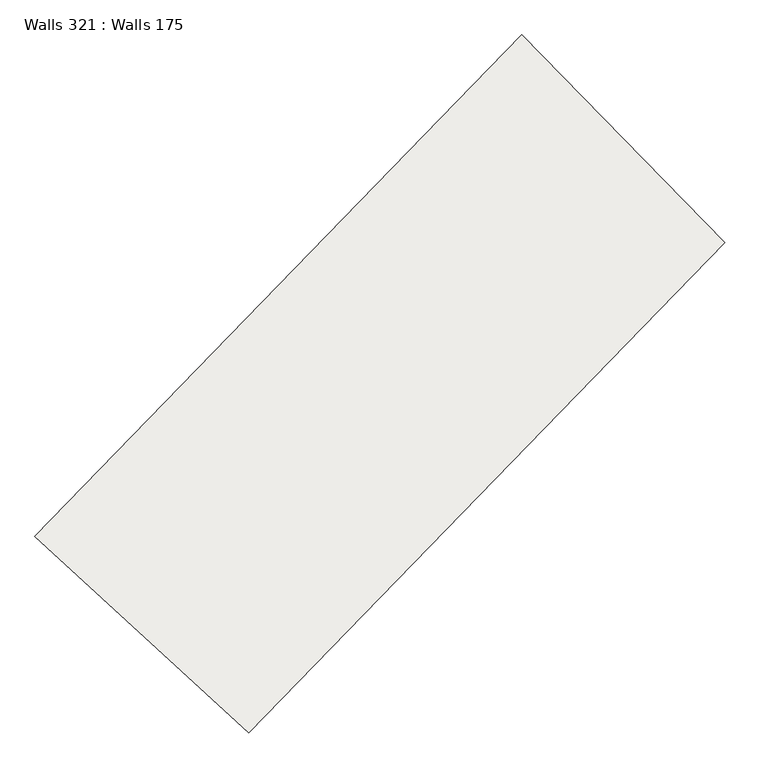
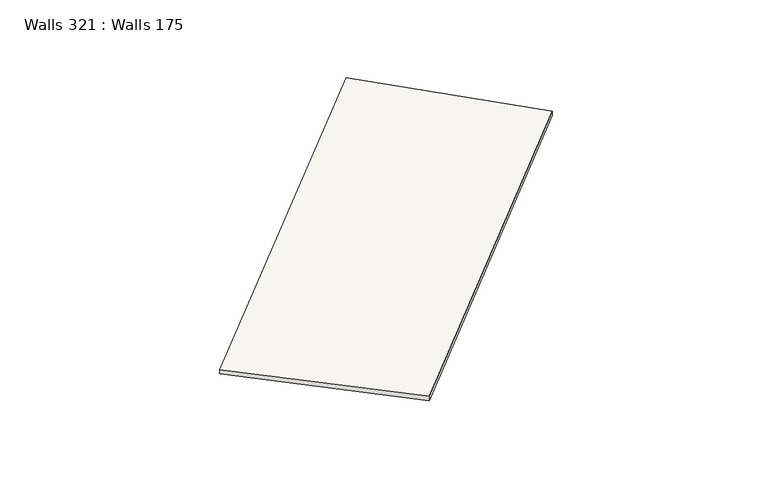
"""IFC4 building model written with IfcOpenShell, lengths in millimetres: slab geometry, Walls 321 : Walls 175."""

from ifc_helpers import new_model, si_unit, frame, origin, place, context, project, spatial, source, transform, mapped, element, save
from ifc_brep_helpers import plane_surface, spline_curve, spline_surface, advanced_brep


def walls_321_walls_175_143b66fd(model_context):
    return source(origin(), model_context, "Body", "AdvancedBrep", [
        advanced_brep(
        [(232038.0150991, 139463.9941908, 642170.0), (235132.3347424, 136624.0670887, 642170.0), (235132.3347424, 136624.0670887, 642270.0), (232038.0150991, 139463.9941908, 642270.0), (239078.86514, 146717.820249, 642290.0), (239078.86514, 146717.820249, 642390.0), (242009.7156281, 143709.4792749, 642390.0), (242009.7156281, 143709.4792749, 642290.0)],
        [
            (0, 1),
            (1, 2),
            (2, 3),
            (3, 0),
            (4, 5),
            (5, 6),
            (6, 7),
            (7, 4),
            (5, 3, spline_curve(3, [(239078.86514, 146717.820249, 642390.0), (236664.958016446, 144366.09186091, 642350.000000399), (234316.786129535, 141946.891007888, 642309.999999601), (232038.0150991, 139463.9941908, 642270.0)], [4, 4], [0.0, 32.78709902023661])),
            (2, 6, spline_curve(3, [(235132.3347424, 136624.0670887, 642270.0), (237358.19898307, 139049.31787638, 642309.999999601), (239651.852782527, 141412.351545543, 642350.000000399), (242009.7156281, 143709.4792749, 642390.0)], [4, 4], [0.0, 32.78709902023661])),
            (7, 1, spline_curve(3, [(242009.7156281, 143709.4792749, 642290.0), (239651.852782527, 141412.351545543, 642250.000000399), (237358.19898307, 139049.31787638, 642209.999999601), (235132.3347424, 136624.0670887, 642170.0)], [4, 4], [0.0, 32.78709902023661])),
            (0, 4, spline_curve(3, [(232038.0150991, 139463.9941908, 642170.0), (234316.786129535, 141946.891007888, 642209.999999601), (236664.958016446, 144366.09186091, 642250.000000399), (239078.86514, 146717.820249, 642290.0)], [4, 4], [0.0, 32.78709902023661])),
        ],
        [
            plane_surface(frame((233585.1749208, 138044.0306398, 642220.0), z_axis=(-0.6761731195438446, -0.7367427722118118, 0.0), x_axis=(0.7367427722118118, -0.6761731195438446, 0.0))),
            plane_surface(frame((240544.2903841, 145213.649762, 642340.0), z_axis=(0.7162716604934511, 0.6978215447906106, 0.0), x_axis=(0.6978215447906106, -0.7162716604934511, 0.0))),
            spline_surface(3, 3, [[(242009.7156281, 143709.4792749, 642390.0), (239651.852782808, 141412.351545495, 642350.0), (237358.198982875, 139049.317876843, 642310.0), (235132.3347424, 136624.0670887, 642270.0)], [(241032.765465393, 144712.259599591, 642390.0), (238656.22119405, 142396.931650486, 642350.0), (236344.394698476, 140015.175587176, 642310.0), (234100.894861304, 137570.709456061, 642270.0)], [(240055.815302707, 145715.039924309, 642390.0), (237660.589605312, 143381.511755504, 642350.0), (235330.590414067, 140981.033297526, 642310.0), (233069.454980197, 138517.351823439, 642270.0)], [(239078.86514, 146717.820249, 642390.0), (236664.958016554, 144366.091860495, 642350.0), (234316.786129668, 141946.89100786, 642310.0), (232038.0150991, 139463.9941908, 642270.0)]], [4, 4], [4, 4], [0.0, 13.779527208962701], [0.0, 32.78709902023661]),
            spline_surface(3, 3, [[(239078.86514, 146717.820249, 642290.0), (236664.958016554, 144366.091860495, 642250.0), (234316.786129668, 141946.89100786, 642210.0), (232038.0150991, 139463.9941908, 642170.0)], [(240055.815302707, 145715.039924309, 642290.0), (237660.589605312, 143381.511755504, 642250.0), (235330.590414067, 140981.033297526, 642210.0), (233069.454980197, 138517.351823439, 642170.0)], [(241032.765465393, 144712.259599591, 642290.0), (238656.22119405, 142396.931650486, 642250.0), (236344.394698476, 140015.175587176, 642210.0), (234100.894861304, 137570.709456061, 642170.0)], [(242009.7156281, 143709.4792749, 642290.0), (239651.852782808, 141412.351545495, 642250.0), (237358.198982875, 139049.317876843, 642210.0), (235132.3347424, 136624.0670887, 642170.0)]], [4, 4], [4, 4], [0.0, 13.779527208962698], [0.0, 32.78709902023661]),
            spline_surface(3, 3, [[(242009.7156281, 143709.4792749, 642290.0), (239651.852782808, 141412.351545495, 642250.0), (237358.198982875, 139049.317876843, 642210.0), (235132.3347424, 136624.0670887, 642170.0)], [(242009.7156281, 143709.4792749, 642323.333333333), (239651.852782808, 141412.351545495, 642283.333333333), (237358.198982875, 139049.317876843, 642243.333333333), (235132.3347424, 136624.0670887, 642203.333333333)], [(242009.7156281, 143709.4792749, 642356.666666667), (239651.852782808, 141412.351545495, 642316.666666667), (237358.198982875, 139049.317876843, 642276.666666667), (235132.3347424, 136624.0670887, 642236.666666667)], [(242009.7156281, 143709.4792749, 642390.0), (239651.852782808, 141412.351545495, 642350.0), (237358.198982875, 139049.317876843, 642310.0), (235132.3347424, 136624.0670887, 642270.0)]], [4, 4], [4, 4], [0.0, 0.3280839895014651], [0.0, 32.402070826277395]),
            spline_surface(3, 3, [[(239078.86514, 146717.820249, 642390.0), (236664.958016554, 144366.091860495, 642350.0), (234316.786129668, 141946.89100786, 642310.0), (232038.0150991, 139463.9941908, 642270.0)], [(239078.86514, 146717.820249, 642356.666666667), (236664.958016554, 144366.091860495, 642316.666666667), (234316.786129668, 141946.89100786, 642276.666666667), (232038.0150991, 139463.9941908, 642236.666666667)], [(239078.86514, 146717.820249, 642323.333333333), (236664.958016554, 144366.091860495, 642283.333333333), (234316.786129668, 141946.89100786, 642243.333333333), (232038.0150991, 139463.9941908, 642203.333333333)], [(239078.86514, 146717.820249, 642290.0), (236664.958016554, 144366.091860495, 642250.0), (234316.786129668, 141946.89100786, 642210.0), (232038.0150991, 139463.9941908, 642170.0)]], [4, 4], [4, 4], [0.0, 0.3280839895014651], [0.0, 33.172127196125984]),
        ],
        [
            (0, [[1, 2, 3, 4]]),
            (1, [[5, 6, 7, 8]]),
            (2, [[-6, 9, -3, 10]]),
            (3, [[-8, 11, -1, 12]]),
            (4, [[-7, -10, -2, -11]]),
            (5, [[-5, -12, -4, -9]]),
        ],
    ),
    ])


if __name__ == "__main__":
    model = new_model("IFC4")
    model_context = context("Model", 3, world=origin())
    ifc_project = project(units=[si_unit("LENGTHUNIT", "METRE", prefix="MILLI")], contexts=[model_context])
    site = spatial("IfcSite", under=ifc_project)
    building = spatial("IfcBuilding", under=site)
    placement = place(None, origin())
    walls_321_walls_175_shape = walls_321_walls_175_143b66fd(model_context)
    element("IfcSlab", 1, ObjectType="Walls 321 : Walls 175", at=placement, inside=building, context=model_context, shape_type="MappedRepresentation", body=[
        mapped(walls_321_walls_175_shape, transform((0.0, 0.0, 0.0), x_axis=(1.0, 0.0, 0.0), y_axis=(0.0, 1.0, 0.0), z_axis=(0.0, 0.0, 1.0))),
    ])
    save(model, "model.ifc")
